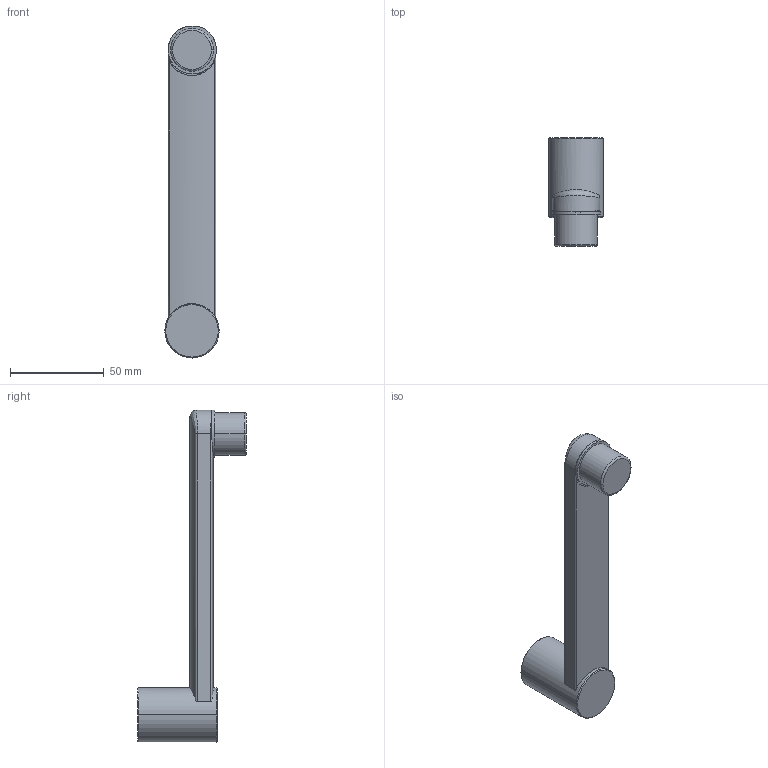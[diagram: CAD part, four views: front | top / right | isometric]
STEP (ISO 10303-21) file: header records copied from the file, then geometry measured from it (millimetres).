
FILE_DESCRIPTION (( 'STEP AP203' ), '1' );
FILE_NAME ('290003.STEP', '2024-10-10T08:18:54', ( '' ), ( '' ), 'SwSTEP 2.0', 'SolidWorks 2024', '' );
FILE_SCHEMA (( 'CONFIG_CONTROL_DESIGN' ));
Length unit declared in the file: millimetre
Products named in the file (1): 290003
Bounding box: 29 x 58.05 x 177.25 mm (x, y, z)
Volume: 77315.5 mm3; surface area: 16472.5 mm2
Topology: 1 solids, 1 shells, 34 faces, 85 edges, 55 vertices
Faces by surface type: cylinder 15, plane 10, cone 4, bspline 3, torus 2
Entity records: 1888 total; most frequent: CARTESIAN_POINT 1017, ORIENTED_EDGE 170, DIRECTION 161, EDGE_CURVE 85, AXIS2_PLACEMENT_3D 64, VERTEX_POINT 55, EDGE_LOOP 36, FACE_OUTER_BOUND 34
